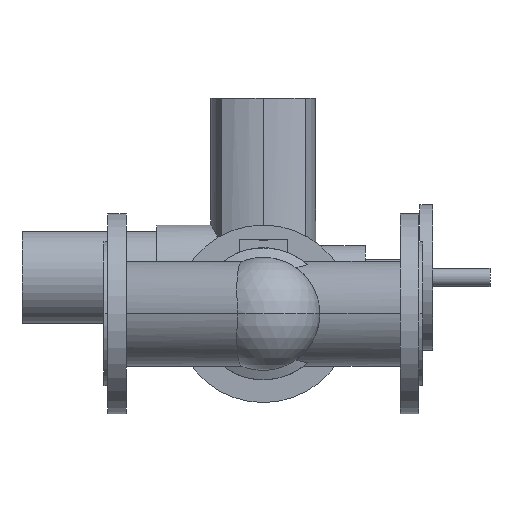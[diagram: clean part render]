
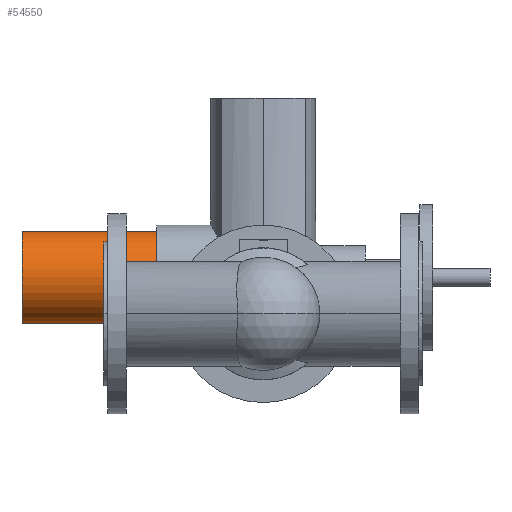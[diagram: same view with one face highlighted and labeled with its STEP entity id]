
A CAD part, front view. The second image highlights one B-rep face of the part: STEP entity #54550.
In plain terms, the highlighted cylindrical face has radius 50.5 mm (diameter 101 mm), a partial arc.
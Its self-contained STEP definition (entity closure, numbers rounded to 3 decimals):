
#54000=CARTESIAN_POINT('',(-16.,699.2,40.));
#54010=DIRECTION('',(1.,0.,0.));
#54020=DIRECTION('',(0.,0.,-1.));
#54030=AXIS2_PLACEMENT_3D('',#54000,#54010,#54020);
#54040=CYLINDRICAL_SURFACE('',#54030,50.5);
#54050=CARTESIAN_POINT('',(-16.,699.2,-10.5));
#54060=DIRECTION('',(1.,0.,0.));
#54070=VECTOR('',#54060,1.);
#54080=LINE('',#54050,#54070);
#54090=CARTESIAN_POINT('',(-90.,699.2,-10.5));
#54100=VERTEX_POINT('',#54090);
#54110=CARTESIAN_POINT('',(58.,699.2,-10.5));
#54120=VERTEX_POINT('',#54110);
#54130=SURFACE_CURVE('',#54080,(#54040,#54040),.CURVE_3D.);
#54140=EDGE_CURVE('',#54100,#54120,#54130,.T.);
#54150=ORIENTED_EDGE('',*,*,#54140,.T.);
#54160=CARTESIAN_POINT('',(-90.,699.2,40.));
#54170=DIRECTION('',(-1.,0.,0.));
#54180=DIRECTION('',(0.,0.,-1.));
#54190=AXIS2_PLACEMENT_3D('',#54160,#54170,#54180);
#54200=CIRCLE('',#54190,50.5);
#54210=CARTESIAN_POINT('',(-90.,699.2,90.5));
#54220=VERTEX_POINT('',#54210);
#54230=CARTESIAN_POINT('',(-90.,699.2,14.75));
#54240=DIRECTION('',(-1.,0.,0.));
#54250=DIRECTION('',(0.,0.,-1.));
#54260=AXIS2_PLACEMENT_3D('',#54230,#54240,#54250);
#54270=PLANE('',#54260);
#54280=SURFACE_CURVE('',#54200,(#54040,#54270),.CURVE_3D.);
#54290=EDGE_CURVE('',#54100,#54220,#54280,.T.);
#54300=ORIENTED_EDGE('',*,*,#54290,.F.);
#54310=CARTESIAN_POINT('',(-16.,699.2,90.5));
#54320=DIRECTION('',(1.,0.,0.));
#54330=VECTOR('',#54320,1.);
#54340=LINE('',#54310,#54330);
#54350=CARTESIAN_POINT('',(58.,699.2,90.5));
#54360=VERTEX_POINT('',#54350);
#54370=SURFACE_CURVE('',#54340,(#54040,#54040),.CURVE_3D.);
#54380=EDGE_CURVE('',#54220,#54360,#54370,.T.);
#54390=ORIENTED_EDGE('',*,*,#54380,.F.);
#54400=CARTESIAN_POINT('',(58.,699.2,40.));
#54410=DIRECTION('',(-1.,0.,0.));
#54420=DIRECTION('',(0.,0.,-1.));
#54430=AXIS2_PLACEMENT_3D('',#54400,#54410,#54420);
#54440=CIRCLE('',#54430,50.5);
#54450=CARTESIAN_POINT('',(58.,699.2,-14.));
#54460=DIRECTION('',(-1.,0.,0.));
#54470=DIRECTION('',(0.,0.,-1.));
#54480=AXIS2_PLACEMENT_3D('',#54450,#54460,#54470);
#54490=PLANE('',#54480);
#54500=SURFACE_CURVE('',#54440,(#54040,#54490),.CURVE_3D.);
#54510=EDGE_CURVE('',#54120,#54360,#54500,.T.);
#54520=ORIENTED_EDGE('',*,*,#54510,.T.);
#54530=EDGE_LOOP('',(#54520,#54390,#54300,#54150));
#54540=FACE_OUTER_BOUND('',#54530,.T.);
#54550=ADVANCED_FACE('',(#54540),#54040,.T.);
